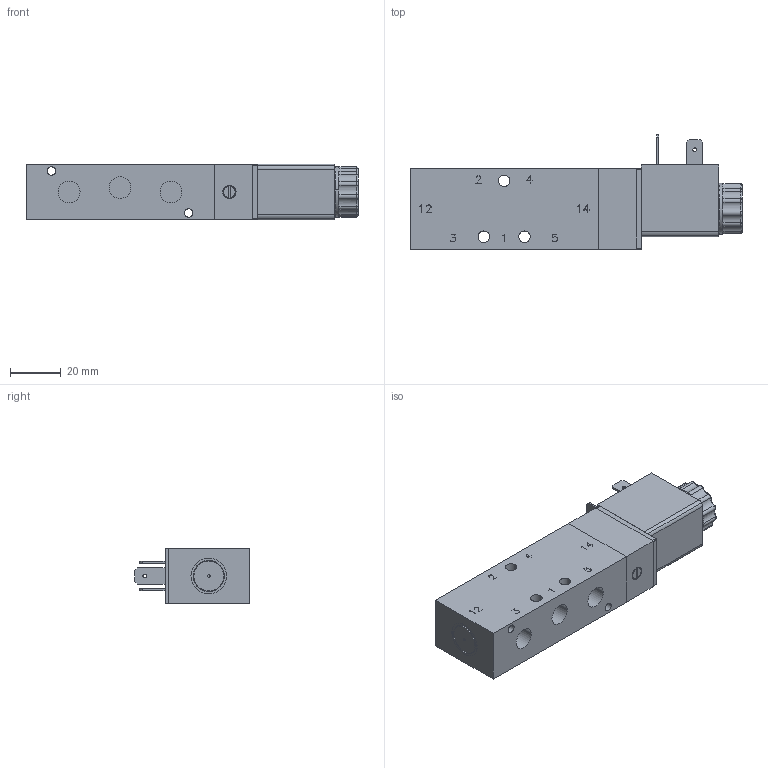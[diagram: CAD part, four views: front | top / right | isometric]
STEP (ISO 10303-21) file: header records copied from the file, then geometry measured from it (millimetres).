
FILE_DESCRIPTION (( 'STEP AP214' ), '1' );
FILE_NAME ('ICK-09-511-HN-F12_Airtec.step', '2019-01-08T08:59:59', ( '' ), ( '' ), 'SwSTEP 2.0', 'SolidWorks 2010', '' );
FILE_SCHEMA (( 'AUTOMOTIVE_DESIGN' ));
Length unit declared in the file: millimetre
Products named in the file (3): Volumenkörper3; Volumenkörper1; ICK-09-511-HN-F12_Airtec
Assembly tree (2 placements, depth 2):
  ICK-09-511-HN-F12_Airtec
    Volumenkörper1
    Volumenkörper3
Bounding box: 130.6 x 45.2 x 22 mm (x, y, z)
Volume: 80761.8 mm3; surface area: 22465.7 mm2
Topology: 2 solids, 2 shells, 760 faces, 2027 edges, 1321 vertices
Faces by surface type: plane 495, cylinder 119, cone 70, torus 60, bspline 16
Entity records: 28882 total; most frequent: CARTESIAN_POINT 5995, ORIENTED_EDGE 4050, DIRECTION 3881, EDGE_CURVE 2025, LINE 1447, VECTOR 1447, VERTEX_POINT 1321, AXIS2_PLACEMENT_3D 1217
